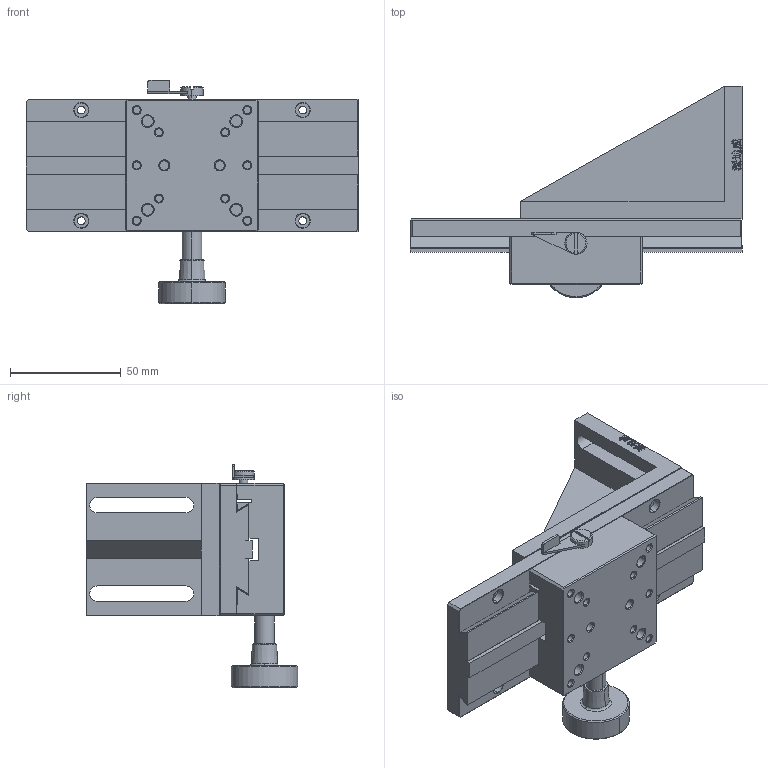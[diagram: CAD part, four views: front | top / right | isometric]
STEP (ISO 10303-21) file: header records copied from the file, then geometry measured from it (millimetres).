
FILE_DESCRIPTION (( 'STEP AP214' ), '1' );
FILE_NAME ('PT-DZ60-150.STEP', '2022-09-17T02:53:52', ( '' ), ( '' ), 'SwSTEP 2.0', 'SolidWorks 2017', '' );
FILE_SCHEMA (( 'AUTOMOTIVE_DESIGN' ));
Length unit declared in the file: millimetre
Products named in the file (5): LWX60-150_ASM_5_ASM; LWZ60-L100; DZ_1; MANIFOLD_SOLID_BREP_HT; PT-DZ60-150
Assembly tree (4 placements, depth 3):
  PT-DZ60-150
    LWX60-150_ASM_5_ASM
      DZ_1
    MANIFOLD_SOLID_BREP_HT
    LWZ60-L100
Bounding box: 150 x 95.5 x 101 mm (x, y, z)
Volume: 256372.3 mm3; surface area: 73176.1 mm2
Topology: 3 solids, 5 shells, 710 faces, 1810 edges, 1171 vertices
Faces by surface type: plane 376, bspline 154, cylinder 109, cone 71
Entity records: 27910 total; most frequent: CARTESIAN_POINT 11299, ORIENTED_EDGE 3616, DIRECTION 2928, EDGE_CURVE 1808, LINE 1192, VECTOR 1192, VERTEX_POINT 1171, AXIS2_PLACEMENT_3D 868
